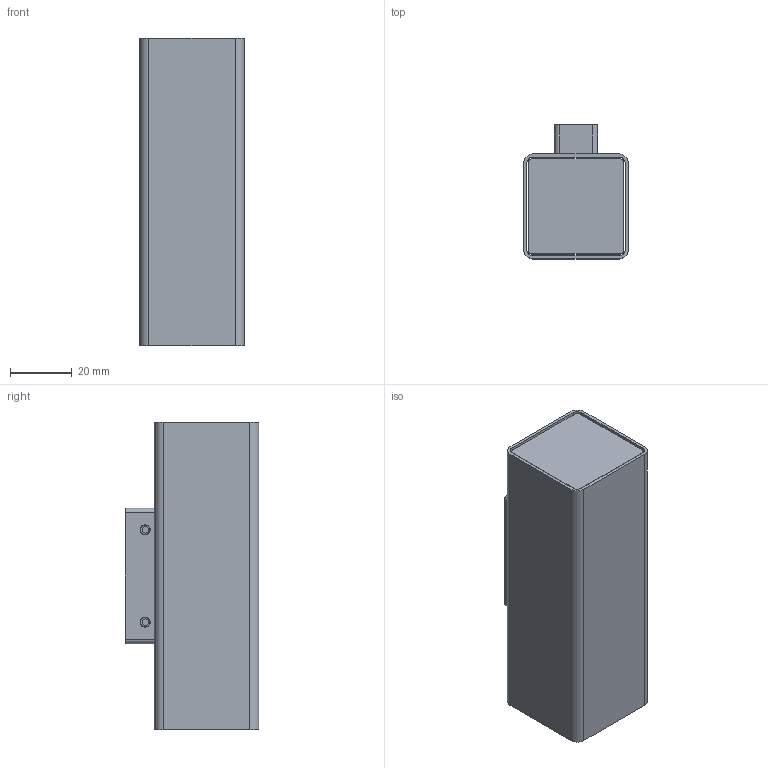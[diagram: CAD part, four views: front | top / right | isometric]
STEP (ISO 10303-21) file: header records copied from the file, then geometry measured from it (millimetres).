
FILE_DESCRIPTION (( 'STEP AP214' ), '1' );
FILE_NAME ('NANOWALL SQUARE XXS skinny.STEP', '2023-10-30T08:48:32', ( '' ), ( '' ), 'SwSTEP 2.0', 'SolidWorks 2023', '' );
FILE_SCHEMA (( 'AUTOMOTIVE_DESIGN' ));
Length unit declared in the file: millimetre
Products named in the file (1): NANOWALL SQUARE XXS skinny
Bounding box: 34 x 43.5 x 100 mm (x, y, z)
Surface area: 19595.7 mm2 (no closed solid volume)
Topology: 0 solids, 8 shells, 102 faces, 278 edges, 186 vertices
Faces by surface type: cylinder 52, plane 42, cone 8
Entity records: 4457 total; most frequent: CARTESIAN_POINT 679, DIRECTION 590, ORIENTED_EDGE 482, EDGE_CURVE 278, AXIS2_PLACEMENT_3D 213, VERTEX_POINT 186, VECTOR 164, LINE 164
